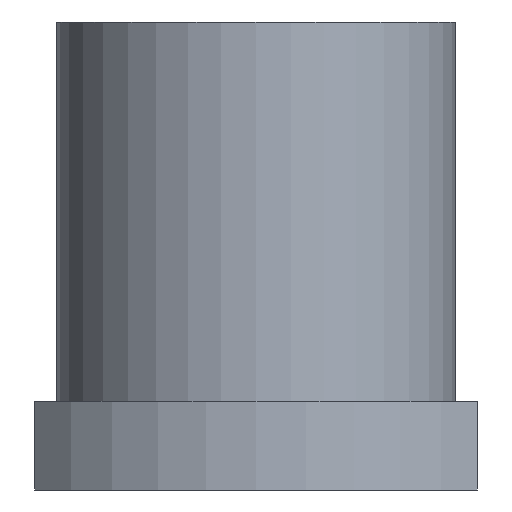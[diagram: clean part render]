
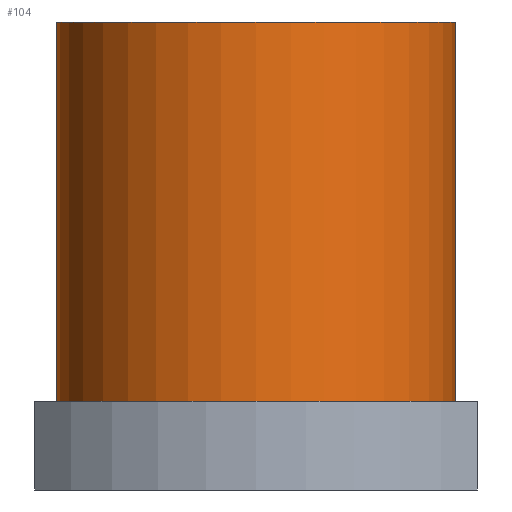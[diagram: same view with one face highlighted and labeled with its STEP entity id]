
A CAD part, front view. The second image highlights one B-rep face of the part: STEP entity #104.
In plain terms, the highlighted cylindrical face has radius 31.5 mm (diameter 63 mm), a full revolution.
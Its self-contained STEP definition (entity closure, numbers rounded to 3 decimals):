
#104=ADVANCED_FACE('',(#138,#139),#124,.T.);
#124=CYLINDRICAL_SURFACE('',#435,31.5);
#138=FACE_BOUND('',#195,.T.);
#139=FACE_BOUND('',#196,.T.);
#195=EDGE_LOOP('',(#268));
#196=EDGE_LOOP('',(#269));
#268=ORIENTED_EDGE('',*,*,#372,.F.);
#269=ORIENTED_EDGE('',*,*,#373,.T.);
#340=VERTEX_POINT('',#648);
#341=VERTEX_POINT('',#650);
#372=EDGE_CURVE('',#340,#340,#405,.T.);
#373=EDGE_CURVE('',#341,#341,#406,.T.);
#405=CIRCLE('',#433,31.5);
#406=CIRCLE('',#434,31.5);
#433=AXIS2_PLACEMENT_3D('',#647,#486,#487);
#434=AXIS2_PLACEMENT_3D('',#649,#488,#489);
#435=AXIS2_PLACEMENT_3D('',#651,#490,#491);
#486=DIRECTION('',(0.,0.,-1.));
#487=DIRECTION('',(1.,0.,0.));
#488=DIRECTION('',(0.,0.,-1.));
#489=DIRECTION('',(1.,0.,0.));
#490=DIRECTION('',(0.,0.,-1.));
#491=DIRECTION('',(-1.,0.,0.));
#647=CARTESIAN_POINT('',(0.,0.,14.));
#648=CARTESIAN_POINT('',(31.5,0.,14.));
#649=CARTESIAN_POINT('',(0.,0.,74.));
#650=CARTESIAN_POINT('',(31.5,0.,74.));
#651=CARTESIAN_POINT('',(0.,0.,74.));
